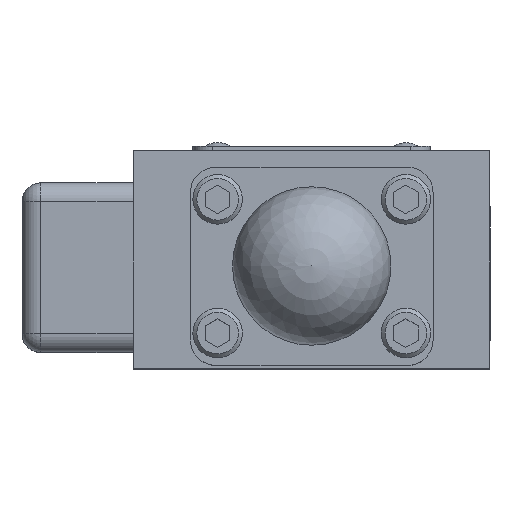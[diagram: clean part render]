
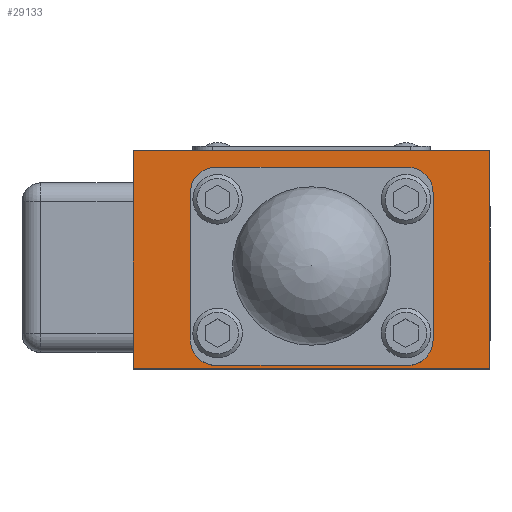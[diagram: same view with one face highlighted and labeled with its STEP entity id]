
A CAD part, top view. The second image highlights one B-rep face of the part: STEP entity #29133.
In plain terms, the highlighted planar face has unit normal (0, 0, 1).
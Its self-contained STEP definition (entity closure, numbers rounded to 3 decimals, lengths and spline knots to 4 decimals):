
#1663=FACE_BOUND('',#8312,.T.);
#2366=LINE('',#47507,#4483);
#2371=LINE('',#47534,#4488);
#2372=LINE('',#47536,#4489);
#2373=LINE('',#47537,#4490);
#2374=LINE('',#47542,#4491);
#2375=LINE('',#47546,#4492);
#2376=LINE('',#47550,#4493);
#2377=LINE('',#47553,#4494);
#4483=VECTOR('',#36096,1.);
#4488=VECTOR('',#36119,1.);
#4489=VECTOR('',#36120,1.);
#4490=VECTOR('',#36121,1.);
#4491=VECTOR('',#36124,1.);
#4492=VECTOR('',#36127,1.);
#4493=VECTOR('',#36130,1.);
#4494=VECTOR('',#36133,1.);
#6566=FACE_OUTER_BOUND('',#8311,.T.);
#8311=EDGE_LOOP('',(#20522,#20523,#20524,#20525));
#8312=EDGE_LOOP('',(#20526,#20527,#20528,#20529,#20530,#20531,#20532,#20533));
#10185=CIRCLE('',#31443,0.4064);
#10186=CIRCLE('',#31444,0.4064);
#10187=CIRCLE('',#31445,0.4064);
#10188=CIRCLE('',#31446,0.4064);
#11909=VERTEX_POINT('',#47501);
#11911=VERTEX_POINT('',#47505);
#11924=VERTEX_POINT('',#47533);
#11925=VERTEX_POINT('',#47535);
#11926=VERTEX_POINT('',#47538);
#11927=VERTEX_POINT('',#47539);
#11928=VERTEX_POINT('',#47541);
#11929=VERTEX_POINT('',#47543);
#11930=VERTEX_POINT('',#47545);
#11931=VERTEX_POINT('',#47547);
#11932=VERTEX_POINT('',#47549);
#11933=VERTEX_POINT('',#47551);
#15083=EDGE_CURVE('',#11909,#11911,#2366,.T.);
#15096=EDGE_CURVE('',#11924,#11911,#2371,.T.);
#15097=EDGE_CURVE('',#11924,#11925,#2372,.T.);
#15098=EDGE_CURVE('',#11925,#11909,#2373,.T.);
#15099=EDGE_CURVE('',#11926,#11927,#10185,.T.);
#15100=EDGE_CURVE('',#11927,#11928,#2374,.T.);
#15101=EDGE_CURVE('',#11928,#11929,#10186,.T.);
#15102=EDGE_CURVE('',#11929,#11930,#2375,.T.);
#15103=EDGE_CURVE('',#11930,#11931,#10187,.T.);
#15104=EDGE_CURVE('',#11931,#11932,#2376,.T.);
#15105=EDGE_CURVE('',#11932,#11933,#10188,.T.);
#15106=EDGE_CURVE('',#11933,#11926,#2377,.T.);
#20522=ORIENTED_EDGE('',*,*,#15083,.T.);
#20523=ORIENTED_EDGE('',*,*,#15096,.F.);
#20524=ORIENTED_EDGE('',*,*,#15097,.T.);
#20525=ORIENTED_EDGE('',*,*,#15098,.T.);
#20526=ORIENTED_EDGE('',*,*,#15099,.T.);
#20527=ORIENTED_EDGE('',*,*,#15100,.T.);
#20528=ORIENTED_EDGE('',*,*,#15101,.T.);
#20529=ORIENTED_EDGE('',*,*,#15102,.T.);
#20530=ORIENTED_EDGE('',*,*,#15103,.T.);
#20531=ORIENTED_EDGE('',*,*,#15104,.T.);
#20532=ORIENTED_EDGE('',*,*,#15105,.T.);
#20533=ORIENTED_EDGE('',*,*,#15106,.T.);
#26360=PLANE('',#31442);
#29133=ADVANCED_FACE('',(#6566,#1663),#26360,.T.);
#31442=AXIS2_PLACEMENT_3D('',#47532,#36117,#36118);
#31443=AXIS2_PLACEMENT_3D('',#47540,#36122,#36123);
#31444=AXIS2_PLACEMENT_3D('',#47544,#36125,#36126);
#31445=AXIS2_PLACEMENT_3D('',#47548,#36128,#36129);
#31446=AXIS2_PLACEMENT_3D('',#47552,#36131,#36132);
#36096=DIRECTION('',(-1.,0.,0.));
#36117=DIRECTION('center_axis',(0.,0.,1.));
#36118=DIRECTION('ref_axis',(1.,0.,0.));
#36119=DIRECTION('',(0.,1.,0.));
#36120=DIRECTION('',(1.,0.,0.));
#36121=DIRECTION('',(0.,1.,0.));
#36122=DIRECTION('center_axis',(0.,0.,
-1.));
#36123=DIRECTION('ref_axis',(-1.,0.,0.));
#36124=DIRECTION('',(0.,-1.,0.));
#36125=DIRECTION('center_axis',(0.,0.,
-1.));
#36126=DIRECTION('ref_axis',(0.,1.,0.));
#36127=DIRECTION('',(-1.,0.,0.));
#36128=DIRECTION('center_axis',(0.,0.,
-1.));
#36129=DIRECTION('ref_axis',(1.,0.,0.));
#36130=DIRECTION('',(0.,1.,0.));
#36131=DIRECTION('center_axis',(0.,0.,
-1.));
#36132=DIRECTION('ref_axis',(0.,-1.,0.));
#36133=DIRECTION('',(1.,0.,0.));
#47501=CARTESIAN_POINT('',(2.8575,1.8567,4.7104));
#47505=CARTESIAN_POINT('',(-2.8575,1.8567,4.7104));
#47507=CARTESIAN_POINT('',(-2.8575,1.8567,4.7104));
#47532=CARTESIAN_POINT('Origin',(2.8575,0.,4.7104));
#47533=CARTESIAN_POINT('',(-2.8575,-1.6358,4.7104));
#47534=CARTESIAN_POINT('',(-2.8575,0.,4.7104));
#47535=CARTESIAN_POINT('',(2.8575,-1.6358,4.7104));
#47536=CARTESIAN_POINT('',(-2.8575,-1.6358,4.7104));
#47537=CARTESIAN_POINT('',(2.8575,0.,4.7104));
#47538=CARTESIAN_POINT('',(1.538,1.5875,4.7104));
#47539=CARTESIAN_POINT('',(1.9444,1.1811,4.7104));
#47540=CARTESIAN_POINT('Origin',(1.538,1.1811,4.7104));
#47541=CARTESIAN_POINT('',(1.9444,-1.1811,4.7104));
#47542=CARTESIAN_POINT('',(1.9444,1.1811,4.7104));
#47543=CARTESIAN_POINT('',(1.538,-1.5875,4.7104));
#47544=CARTESIAN_POINT('Origin',(1.538,-1.1811,4.7104));
#47545=CARTESIAN_POINT('',(-1.538,-1.5875,4.7104));
#47546=CARTESIAN_POINT('',(1.538,-1.5875,4.7104));
#47547=CARTESIAN_POINT('',(-1.9444,-1.1811,4.7104));
#47548=CARTESIAN_POINT('Origin',(-1.538,-1.1811,4.7104));
#47549=CARTESIAN_POINT('',(-1.9444,1.1811,4.7104));
#47550=CARTESIAN_POINT('',(-1.9444,-1.1811,4.7104));
#47551=CARTESIAN_POINT('',(-1.538,1.5875,4.7104));
#47552=CARTESIAN_POINT('Origin',(-1.538,1.1811,4.7104));
#47553=CARTESIAN_POINT('',(-1.538,1.5875,4.7104));
